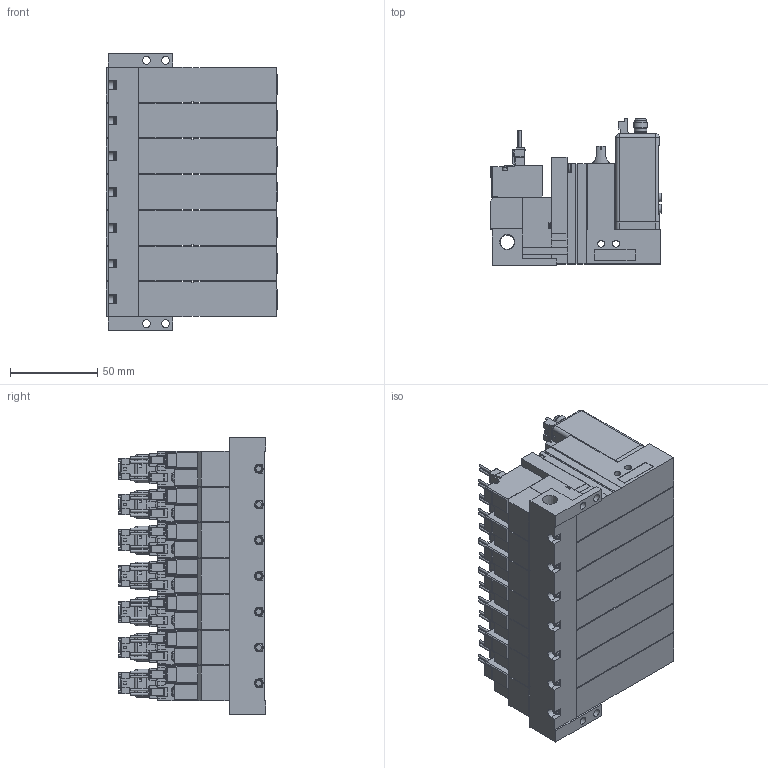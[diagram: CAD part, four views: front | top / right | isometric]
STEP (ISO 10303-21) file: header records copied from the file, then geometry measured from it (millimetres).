
FILE_DESCRIPTION(('STEP AP203'),'1');
FILE_NAME('22_22PLC5ALR707.stp','2025-06-12T05:10:59',(' '),(' '),'Spatial InterOp 3D',' ',' ');
FILE_SCHEMA(('CONFIG_CONTROL_DESIGN'));
Length unit declared in the file: millimetre
Products named in the file (11): BMC22M※※※※22_22PLC5ALR707; Solenoid valve A; Unit LC; Base MR70R; MVS-202
Assembly tree (22 placements, depth 2):
  BMC22M※※※※22_22PLC5ALR707
    Solenoid valve A  x7
    Unit LC  x7
    Base MR70R
    MVS-202
    MVS-202
    MVS-202
    MVS-202
    MVS-202
    MVS-202
    MVS-202
Bounding box: 98.5 x 84.6 x 159 mm (x, y, z)
Volume: 766355 mm3; surface area: 217770.3 mm2
Topology: 22 solids, 50 shells, 5649 faces, 14731 edges, 9602 vertices
Faces by surface type: plane 4760, cylinder 691, cone 114, torus 56, sphere 28
Full cylindrical faces by diameter (mm): 1 x28, 1.4 x28, 1.5 x7, 2.5 x7, 3 x28, 3.5 x28, 3.6 x7, 4 x14, 4.134 x7, 4.5 x32, 4.8 x21, 5 x14, 5.2 x7, 5.8 x14, 6 x14, 6.5 x21, 6.6 x7, 7 x7, 7.2 x7, 7.9 x7, 8 x14, 8.279 x1
Entity records: 102294 total; most frequent: CARTESIAN_POINT 18442, ORIENTED_EDGE 16736, DIRECTION 16520, EDGE_CURVE 8368, LINE 7058, VECTOR 7058, VERTEX_POINT 5657, AXIS2_PLACEMENT_3D 4731
